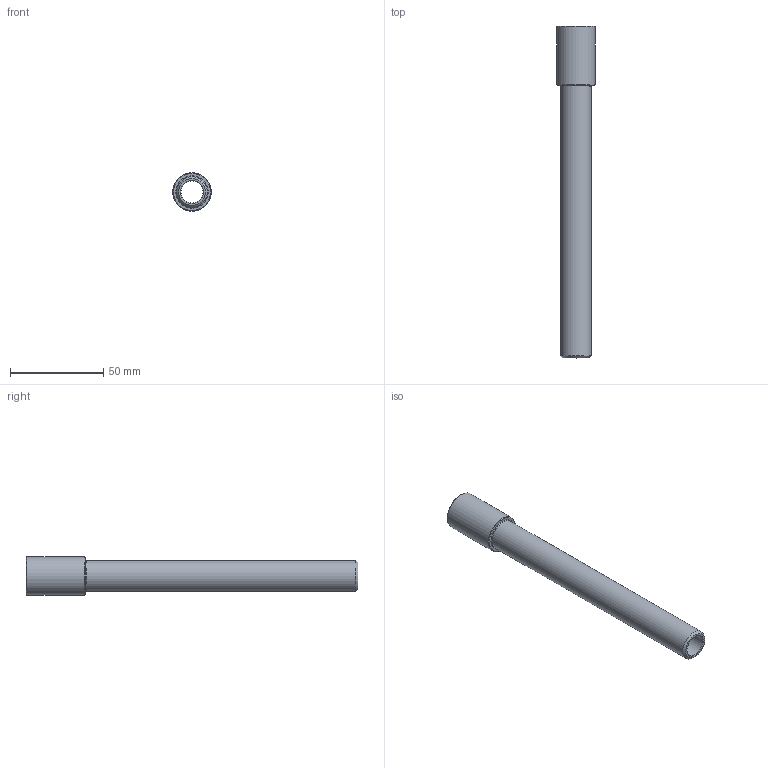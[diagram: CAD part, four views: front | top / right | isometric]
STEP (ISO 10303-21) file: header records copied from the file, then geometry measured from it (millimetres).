
FILE_DESCRIPTION(/* description */ (''),/* implementation_level */ '2;1');
FILE_NAME(/* name */ 'C:/Users/drich/Desktop/EP38X7 v1.step',/* time_stamp */ '2019-11-18T15:07:02-06:00',/* author */ (''),/* organization */ (''),/* preprocessor_version */ 'ST-DEVELOPER v18',/* originating_system */ 'Autodesk Translation Framework v8.12.0.6',/* authorisation */ '');
FILE_SCHEMA (('AUTOMOTIVE_DESIGN { 1 0 10303 214 3 1 1 }'));
Length unit declared in the file: inch
Products named in the file (2): EP38X7; EP38X4
Assembly tree (1 placements, depth 2):
  EP38X7
    EP38X4
Bounding box: 20.62 x 177.8 x 20.62 mm (x, y, z)
Volume: 20624 mm3; surface area: 16934.6 mm2
Topology: 1 solids, 1 shells, 23 faces, 55 edges, 37 vertices
Faces by surface type: plane 11, cone 7, cylinder 5
Full cylindrical faces by diameter (mm): 11.887 x1, 14.986 x1, 15.173 x1, 16.537 x1, 20.625 x1
Entity records: 740 total; most frequent: CARTESIAN_POINT 132, DIRECTION 124, ORIENTED_EDGE 110, EDGE_CURVE 55, AXIS2_PLACEMENT_3D 50, VERTEX_POINT 37, EDGE_LOOP 28, LINE 24
